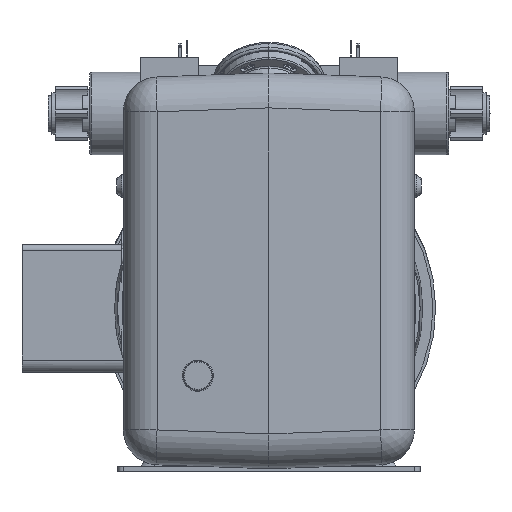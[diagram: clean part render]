
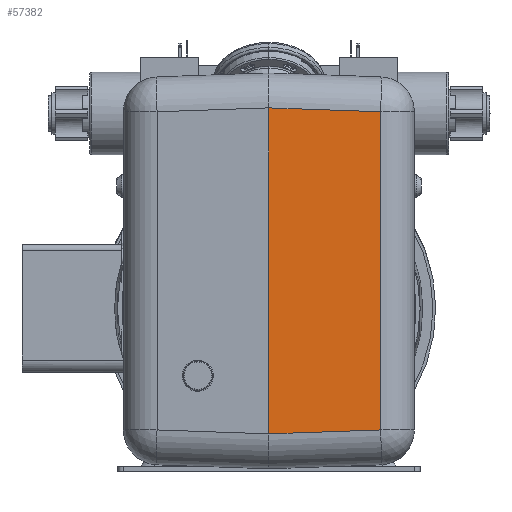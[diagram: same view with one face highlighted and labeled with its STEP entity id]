
A CAD part, front view. The second image highlights one B-rep face of the part: STEP entity #57382.
In plain terms, the highlighted planar face has unit normal (0.035, -0.999, 0).
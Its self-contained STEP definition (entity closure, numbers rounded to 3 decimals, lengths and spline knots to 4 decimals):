
#54025=DIRECTION('',(0.,0.,1.));
#54026=VECTOR('',#54025,7.0009);
#54027=CARTESIAN_POINT('',(0.,-13.255,-2.6905));
#54028=LINE('',#54027,#54026);
#54138=DIRECTION('',(-0.999,-0.035,0.035));
#54139=VECTOR('',#54138,2.4041);
#54140=CARTESIAN_POINT('',(2.4012,-13.1711,
4.2266));
#54141=LINE('',#54140,#54139);
#54151=DIRECTION('',(0.,0.,1.));
#54152=VECTOR('',#54151,6.8332);
#54153=CARTESIAN_POINT('',(2.4012,-13.1711,
-2.6066));
#54154=LINE('',#54153,#54152);
#54187=DIRECTION('',(0.999,0.035,0.035));
#54188=VECTOR('',#54187,2.4041);
#54189=CARTESIAN_POINT('',(0.,-13.255,-2.6905));
#54190=LINE('',#54189,#54188);
#55845=CARTESIAN_POINT('',(0.,-13.255,-2.6905));
#55846=VERTEX_POINT('',#55845);
#55847=CARTESIAN_POINT('',(2.4012,-13.1711,
-2.6066));
#55848=VERTEX_POINT('',#55847);
#55851=CARTESIAN_POINT('',(2.4012,-13.1711,
4.2266));
#55852=VERTEX_POINT('',#55851);
#55867=CARTESIAN_POINT('',(0.,-13.255,4.3105));
#55868=VERTEX_POINT('',#55867);
#57368=CARTESIAN_POINT('',(0.,-13.255,-3.44));
#57369=DIRECTION('',(-0.035,0.999,0.));
#57370=DIRECTION('',(0.,0.,-1.));
#57371=AXIS2_PLACEMENT_3D('',#57368,#57369,#57370);
#57372=PLANE('',#57371);
#57374=ORIENTED_EDGE('',*,*,#57373,.F.);
#57375=ORIENTED_EDGE('',*,*,#57355,.T.);
#57377=ORIENTED_EDGE('',*,*,#57376,.F.);
#57379=ORIENTED_EDGE('',*,*,#57378,.F.);
#57380=EDGE_LOOP('',(#57374,#57375,#57377,#57379));
#57381=FACE_OUTER_BOUND('',#57380,.F.);
#57382=ADVANCED_FACE('',(#57381),#57372,.F.);
#57355=EDGE_CURVE('',#55846,#55868,#54028,.T.);
#57373=EDGE_CURVE('',#55846,#55848,#54190,.T.);
#57376=EDGE_CURVE('',#55852,#55868,#54141,.T.);
#57378=EDGE_CURVE('',#55848,#55852,#54154,.T.);
